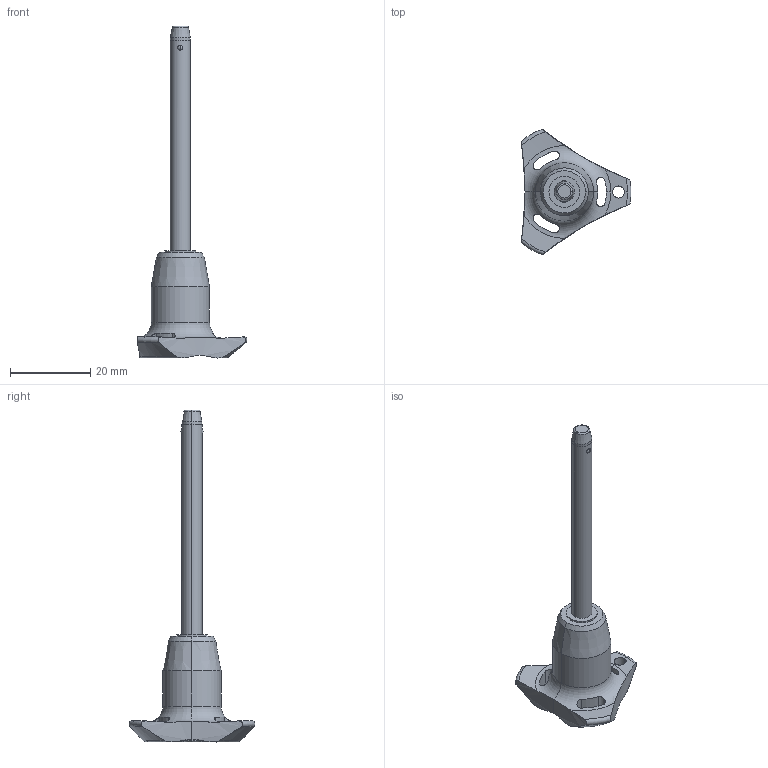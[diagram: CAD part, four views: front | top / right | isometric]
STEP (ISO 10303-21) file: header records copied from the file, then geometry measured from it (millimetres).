
FILE_DESCRIPTION (( 'STEP AP203' ), '1' );
FILE_NAME ('QR1726.M05-050-T.step', '2025-11-13T11:00:12', ( '' ), ( '' ), 'SwSTEP 2.0', 'SolidWorks 2019', '' );
FILE_SCHEMA (( 'CONFIG_CONTROL_DESIGN' ));
Length unit declared in the file: millimetre
Products named in the file (1): QR1726.M05-050-T
Bounding box: 27.4 x 31.31 x 82.7 mm (x, y, z)
Volume: 5849.7 mm3; surface area: 3293.8 mm2
Topology: 1 solids, 1 shells, 69 faces, 187 edges, 119 vertices
Faces by surface type: cylinder 32, cone 14, torus 12, sphere 6, plane 5
Entity records: 2773 total; most frequent: CARTESIAN_POINT 994, ORIENTED_EDGE 374, DIRECTION 348, EDGE_CURVE 187, AXIS2_PLACEMENT_3D 155, VERTEX_POINT 119, CIRCLE 85, EDGE_LOOP 76
